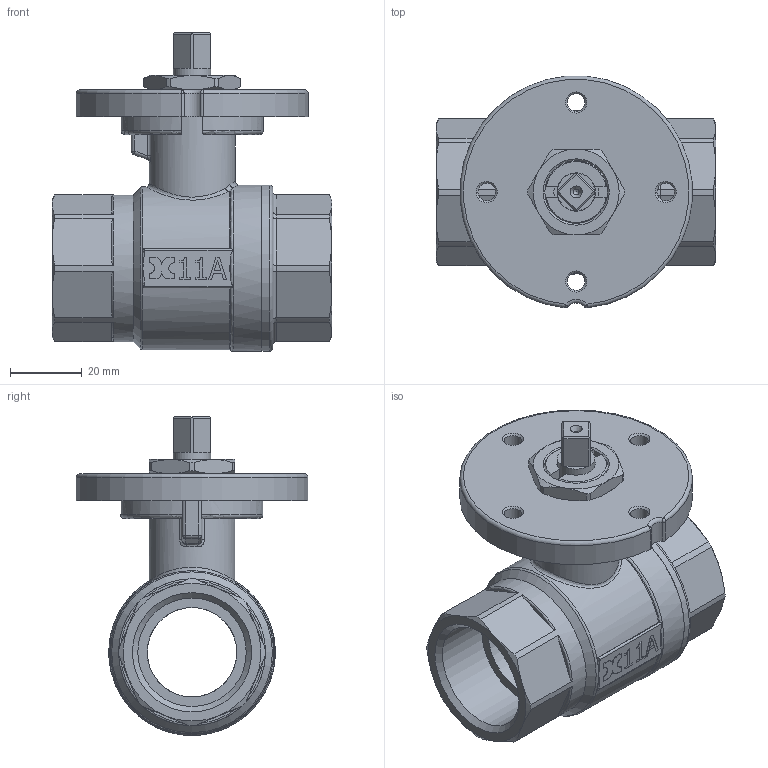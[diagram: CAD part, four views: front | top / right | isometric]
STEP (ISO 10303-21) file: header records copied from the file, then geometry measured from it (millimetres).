
FILE_DESCRIPTION((''),'2;1');
FILE_NAME('C:\Documents and Settings\ut4\Desktop\TICOM ULTIMATE\art.105 PM SM 001.stp','2012-07-16T14:34:30',('ut4'),(''),'Autodesk Inventor 2013','Autodesk Inventor 2013','');
FILE_SCHEMA(('AUTOMOTIVE_DESIGN { 1 0 10303 214 1 1 1 1 }'));
Length unit declared in the file: millimetre
Products named in the file (13): Valvola a sfera mot. 001 art.105 PM SM (Livello di dettaglio2); Corpo femmina 001 mot; Sfera 001; O-ring 29.82 x 2; Ghiera ferma asta mot. 20-19; Anello antigrip. perno mot. Ø15; Boccola antigrip. perno mot. Ø15; Perno mot. 15 q8; O-ring 11.11 x 1; Sede 001; Manic. femmina-deviatore 001 mot; Dischetto portamotore SM Ø19 lav; Dado blocca piastra SM2
Assembly tree (15 placements, depth 2):
  Valvola a sfera mot. 001 art.105 PM SM (Livello di dettaglio2)
    Corpo femmina 001 mot
    Sfera 001
    O-ring 29.82 x 2  x2
    Ghiera ferma asta mot. 20-19
    Anello antigrip. perno mot. Ø15
    Boccola antigrip. perno mot. Ø15
    Perno mot. 15 q8
    O-ring 11.11 x 1  x2
    Sede 001  x2
    Manic. femmina-deviatore 001 mot
    Dischetto portamotore SM Ø19 lav
    Dado blocca piastra SM2
Bounding box: 78.2 x 64.73 x 89.1 mm (x, y, z)
Volume: 96070.6 mm3; surface area: 57639.6 mm2
Topology: 15 solids, 15 shells, 586 faces, 1443 edges, 891 vertices
Faces by surface type: plane 240, cylinder 156, cone 66, torus 63, bspline 40, sphere 21
Full cylindrical faces by diameter (mm): 1.6 x1, 4.917 x4, 10.5 x2, 10.7 x1, 12 x1, 12.1 x2, 12.4 x2, 12.5 x2, 14.9 x3, 15 x3, 17.5 x1, 18 x1, 18.5 x1, 19 x2, 20 x1, 24 x1, 25 x5, 29.9 x2, 30.3 x2, 35 x4, 40.5 x1, 41 x1, 42 x1, 43 x1, 45.5 x1, 46.5 x2
Entity records: 18187 total; most frequent: CARTESIAN_POINT 4704, DIRECTION 2693, ORIENTED_EDGE 2608, EDGE_CURVE 1304, AXIS2_PLACEMENT_3D 1054, VERTEX_POINT 862, EDGE_LOOP 718, VECTOR 585
